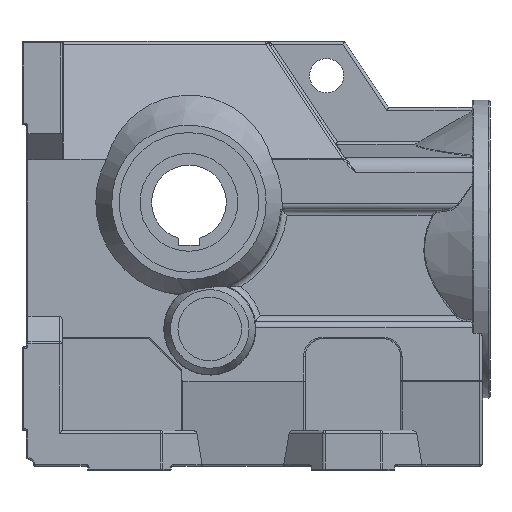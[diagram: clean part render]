
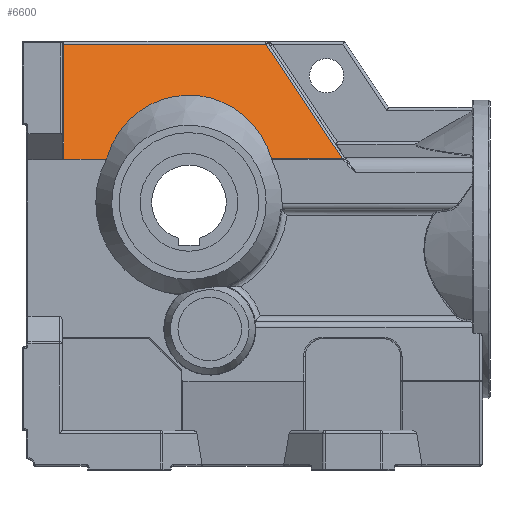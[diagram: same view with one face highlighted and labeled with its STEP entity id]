
A CAD part, front view. The second image highlights one B-rep face of the part: STEP entity #6600.
In plain terms, the highlighted planar face has unit normal (0, -0.935, 0.355).
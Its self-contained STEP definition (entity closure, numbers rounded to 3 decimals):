
#4751=CARTESIAN_POINT('',(60.455,-82.435,209.172));
#4752=VERTEX_POINT('',#4751);
#4760=CARTESIAN_POINT('',(12.817,-82.435,209.172));
#4761=VERTEX_POINT('',#4760);
#4762=CARTESIAN_POINT('',(60.455,-82.435,209.172));
#4763=DIRECTION('',(-1.0,0.0,0.0));
#4764=VECTOR('',#4763,47.638);
#4765=LINE('',#4762,#4764);
#4766=EDGE_CURVE('',#4752,#4761,#4765,.T.);
#6467=CARTESIAN_POINT('',(9.193,-53.235,286.065));
#6468=VERTEX_POINT('',#6467);
#6509=CARTESIAN_POINT('',(9.193,-53.235,286.065));
#6510=DIRECTION('',(0.529,-0.301,-0.793));
#6511=VECTOR('',#6510,96.918);
#6512=LINE('',#6509,#6511);
#6513=EDGE_CURVE('',#6468,#4752,#6512,.T.);
#6560=CARTESIAN_POINT('',(6.75,-67.5,248.5));
#6561=DIRECTION('',(0.0,-0.935,0.355));
#6562=DIRECTION('',(0.0,-0.355,-0.935));
#6563=AXIS2_PLACEMENT_3D('',#6560,#6561,#6562);
#6564=PLANE('',#6563);
#6565=ORIENTED_EDGE('',*,*,#4766,.F.);
#6566=ORIENTED_EDGE('',*,*,#6513,.F.);
#6567=CARTESIAN_POINT('',(-126.5,-53.235,286.065));
#6568=VERTEX_POINT('',#6567);
#6569=CARTESIAN_POINT('',(-126.5,-53.235,286.065));
#6570=DIRECTION('',(1.0,0.0,0.0));
#6571=VECTOR('',#6570,135.693);
#6572=LINE('',#6569,#6571);
#6573=EDGE_CURVE('',#6568,#6468,#6572,.T.);
#6574=ORIENTED_EDGE('',*,*,#6573,.F.);
#6575=CARTESIAN_POINT('',(-126.5,-82.5,209.0));
#6576=VERTEX_POINT('',#6575);
#6577=CARTESIAN_POINT('',(-126.5,-82.5,209.0));
#6578=DIRECTION('',(0.0,0.355,0.935));
#6579=VECTOR('',#6578,82.435);
#6580=LINE('',#6577,#6579);
#6581=EDGE_CURVE('',#6576,#6568,#6580,.T.);
#6582=ORIENTED_EDGE('',*,*,#6581,.F.);
#6583=CARTESIAN_POINT('',(-97.865,-82.5,209.0));
#6584=VERTEX_POINT('',#6583);
#6585=CARTESIAN_POINT('',(-126.5,-82.5,209.0));
#6586=DIRECTION('',(1.0,0.0,0.0));
#6587=VECTOR('',#6586,28.635);
#6588=LINE('',#6585,#6587);
#6589=EDGE_CURVE('',#6576,#6584,#6588,.T.);
#6590=ORIENTED_EDGE('',*,*,#6589,.T.);
#6591=CARTESIAN_POINT('',(-42.5,-88.602,192.93));
#6592=DIRECTION('',(0.,0.935,-0.355));
#6593=DIRECTION('',(0.,-0.355,-0.935));
#6594=AXIS2_PLACEMENT_3D('',#6591,#6592,#6593);
#6595=ELLIPSE('',#6594,63.086,57.542);
#6596=EDGE_CURVE('',#6584,#4761,#6595,.T.);
#6597=ORIENTED_EDGE('',*,*,#6596,.T.);
#6598=EDGE_LOOP('',(#6565,#6566,#6574,#6582,#6590,#6597));
#6599=FACE_OUTER_BOUND('',#6598,.T.);
#6600=ADVANCED_FACE('',(#6599),#6564,.T.);
